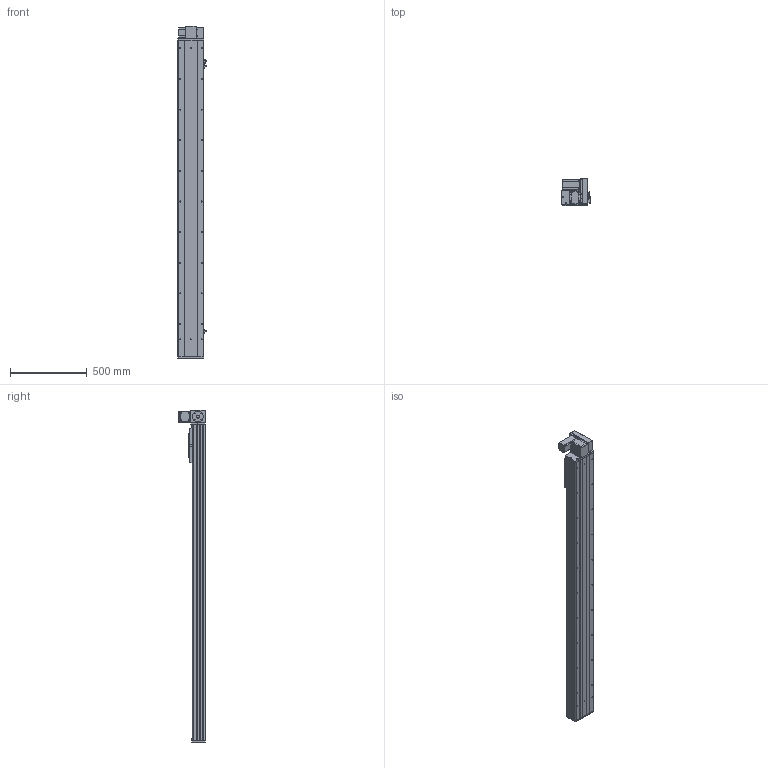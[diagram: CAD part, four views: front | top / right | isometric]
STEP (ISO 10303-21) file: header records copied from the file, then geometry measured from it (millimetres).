
FILE_DESCRIPTION (( 'STEP AP203' ), '1' );
FILE_NAME ('Y170CB-D105-S1750-UR-P400W.STEP', '2020-02-20T04:30:01', ( '微软用户' ), ( '微软中国' ), 'SwSTEP 2.0', 'SolidWorks 2017', '' );
FILE_SCHEMA (( 'CONFIG_CONTROL_DESIGN' ));
Length unit declared in the file: millimetre
Products named in the file (18): 00B-俋欶BM--163; 70CB--耜裔; 70B喘謫眊----; 70C-雄赽釱-奻-; B-源倛裔啣; Y170CB-D105-S1750-UR-P400W; 0C--雄赽釱俋欶-170; 0B-萇儂楊擘啣; 70CB-詩湍--; san松下电机400不带刹车----; Y100-135俋离換覜ん--; 70CB-掛极-; Y170CB-陔俋离換覜結え---; --70CB --喘謫眊楊擘啣-; Y1埴倛裔; 70CB-耜裔啣-; 17B-耜蚾蟀諉啣----; 70C--詩湍揤踡え-
Assembly tree (21 placements, depth 2):
  Y170CB-D105-S1750-UR-P400W
    B-源倛裔啣
    0B-萇儂楊擘啣
    san松下电机400不带刹车----
    70CB-掛极-
    --70CB --喘謫眊楊擘啣-
    70CB-耜裔啣-  x2
    70C--詩湍揤踡え-  x2
    70CB--耜裔
    70C-雄赽釱-奻-
    0C--雄赽釱俋欶-170
    70CB-詩湍--
    Y100-135俋离換覜ん--  x3
    Y170CB-陔俋离換覜結え---
    Y1埴倛裔
    17B-耜蚾蟀諉啣----
    00B-俋欶BM--163
    70B喘謫眊----
Bounding box: 183.5 x 174 x 2166 mm (x, y, z)
Volume: 9492244.5 mm3; surface area: 3419104.2 mm2
Topology: 21 solids, 21 shells, 1039 faces, 2789 edges, 1850 vertices
Faces by surface type: cylinder 553, plane 462, cone 24
Entity records: 33204 total; most frequent: CARTESIAN_POINT 6096, DIRECTION 5402, ORIENTED_EDGE 5060, EDGE_CURVE 2530, AXIS2_PLACEMENT_3D 1988, VERTEX_POINT 1680, LINE 1426, VECTOR 1426
